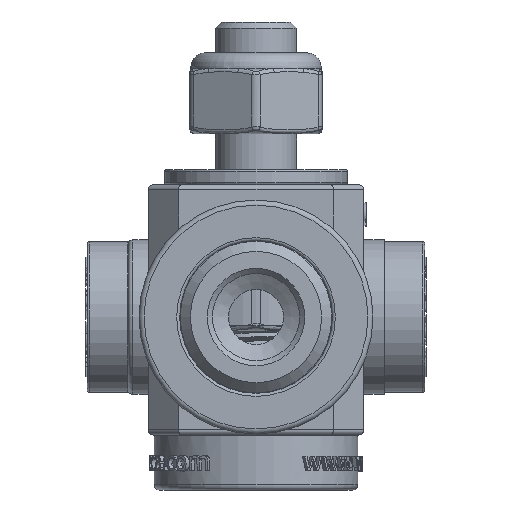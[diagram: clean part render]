
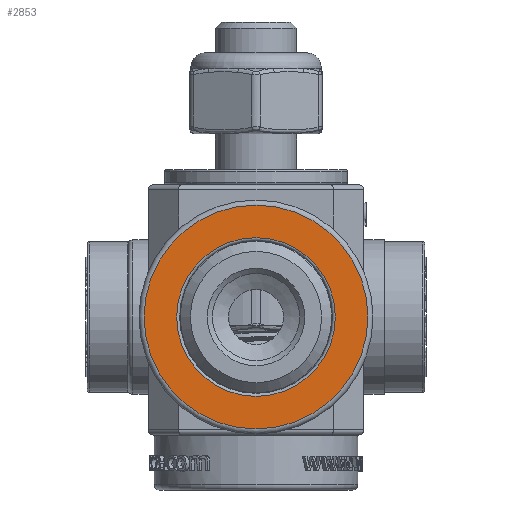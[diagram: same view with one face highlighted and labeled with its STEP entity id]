
A CAD part, left-side view. The second image highlights one B-rep face of the part: STEP entity #2853.
In plain terms, the highlighted planar face has unit normal (-1, 0, 0).
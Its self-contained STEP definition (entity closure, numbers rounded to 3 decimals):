
#2853 = ADVANCED_FACE( '', ( #6580, #6581 ), #6582, .F. );
#6580 = FACE_BOUND( '', #11731, .T. );
#6581 = FACE_OUTER_BOUND( '', #11732, .T. );
#6582 = PLANE( '', #11733 );
#11731 = EDGE_LOOP( '', ( #20473 ) );
#11732 = EDGE_LOOP( '', ( #20474 ) );
#11733 = AXIS2_PLACEMENT_3D( '', #20475, #20476, #20477 );
#20473 = ORIENTED_EDGE( '', *, *, #29477, .T. );
#20474 = ORIENTED_EDGE( '', *, *, #29457, .T. );
#20475 = CARTESIAN_POINT( '', ( -26., 0., 2. ) );
#20476 = DIRECTION( '', ( 1., 0., 0. ) );
#20477 = DIRECTION( '', ( 0., 1., 0. ) );
#29457 = EDGE_CURVE( '', #32919, #32919, #32920, .F. );
#29477 = EDGE_CURVE( '', #32953, #32953, #32954, .T. );
#32919 = VERTEX_POINT( '', #42401 );
#32920 = CIRCLE( '', #42402, 11. );
#32953 = VERTEX_POINT( '', #42454 );
#32954 = CIRCLE( '', #42455, 7.8 );
#42401 = CARTESIAN_POINT( '', ( -26., 11., 2. ) );
#42402 = AXIS2_PLACEMENT_3D( '', #49678, #49679, #49680 );
#42454 = CARTESIAN_POINT( '', ( -26., 7.8, 2. ) );
#42455 = AXIS2_PLACEMENT_3D( '', #49730, #49731, #49732 );
#49678 = CARTESIAN_POINT( '', ( -26., 0., 2. ) );
#49679 = DIRECTION( '', ( 1., 0., 0. ) );
#49680 = DIRECTION( '', ( 0., 1., 0. ) );
#49730 = CARTESIAN_POINT( '', ( -26., 0., 2. ) );
#49731 = DIRECTION( '', ( 1., 0., 0. ) );
#49732 = DIRECTION( '', ( 0., 1., 0. ) );
